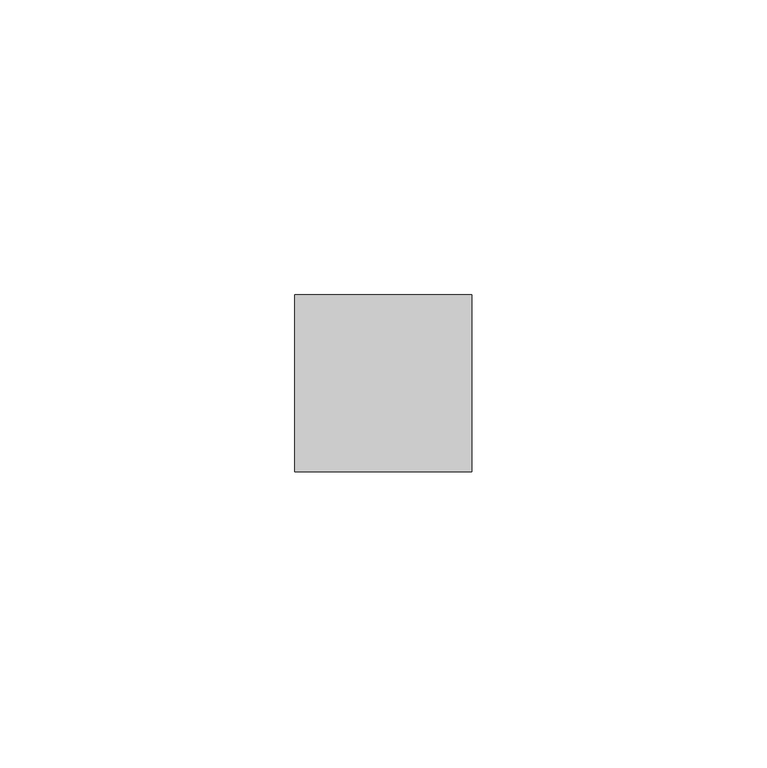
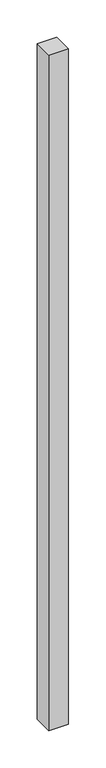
"""IFC4 building model written with IfcOpenShell, lengths in millimetres: member geometry, 矩形竖梃 : 30mm 正方形."""

from ifc_helpers import new_model, si_unit, frame, origin, place, context, project, spatial, polyline, outline, extrude, source, transform, mapped, element, save


def member_f3a61f5a(model_context):
    return source(origin(), model_context, "Body", "SweptSolid", [
        extrude(outline(polyline([(15.0, 15.0), (15.0, -15.0), (-15.0, -15.0), (-15.0, 15.0), (15.0, 15.0)])), frame((0.0, 0.0, -1100.0), z_axis=(0.0, 0.0, 1.0), x_axis=(1.0, 0.0, 0.0)), (0.0, 0.0, 1.0), 1100.0),
    ])


if __name__ == "__main__":
    model = new_model("IFC4")
    model_context = context("Model", 3, world=origin())
    ifc_project = project(units=[si_unit("LENGTHUNIT", "METRE", prefix="MILLI")], contexts=[model_context])
    site = spatial("IfcSite", under=ifc_project)
    building = spatial("IfcBuilding", under=site)
    placement = place(None, origin())
    member_shape = member_f3a61f5a(model_context)
    element("IfcMember", 1, ObjectType="矩形竖梃 : 30mm 正方形", at=placement, inside=building, context=model_context, shape_type="MappedRepresentation", body=[
        mapped(member_shape, transform((0.0, 0.0, 0.0), x_axis=(1.0, 0.0, 0.0), y_axis=(0.0, 1.0, 0.0), z_axis=(0.0, 0.0, 1.0))),
    ])
    save(model, "model.ifc")
